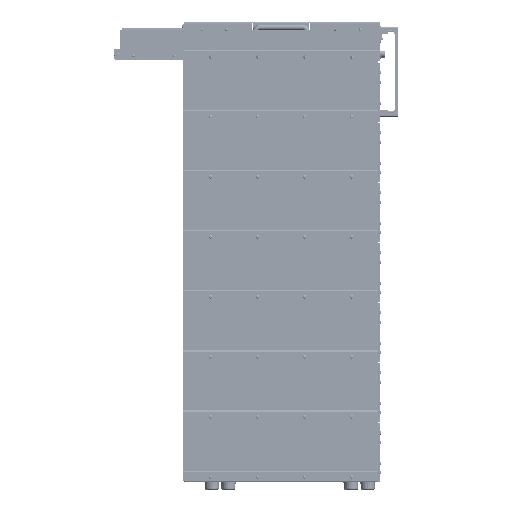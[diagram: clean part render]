
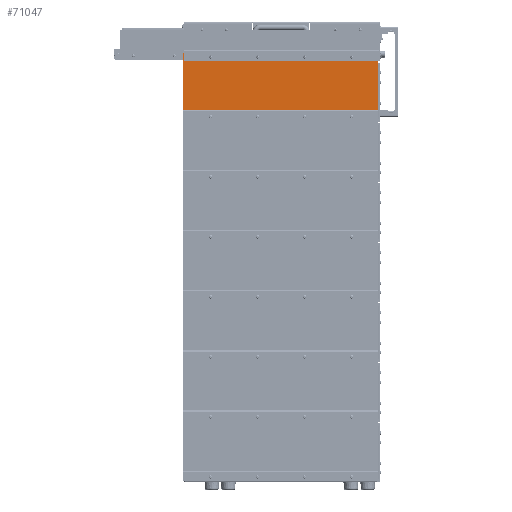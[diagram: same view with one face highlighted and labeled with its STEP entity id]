
A CAD part, left-side view. The second image highlights one B-rep face of the part: STEP entity #71047.
In plain terms, the highlighted planar face has unit normal (-1, 0, 0).
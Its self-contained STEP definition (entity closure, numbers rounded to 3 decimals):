
#71047=ADVANCED_FACE('',(#159209,#159210,#159211,#159212,#159213),#159214,.T.);
#159209=FACE_OUTER_BOUND('',#277696,.T.);
#159210=FACE_BOUND('',#277697,.T.);
#159211=FACE_BOUND('',#277698,.T.);
#159212=FACE_BOUND('',#277699,.T.);
#159213=FACE_BOUND('',#277700,.T.);
#159214=PLANE('',#277701);
#277696=EDGE_LOOP('',(#468853,#468854,#468855,#468856,#468857,#468858,#468859,#468860));
#277697=EDGE_LOOP('',(#468861,#468862));
#277698=EDGE_LOOP('',(#468863,#468864));
#277699=EDGE_LOOP('',(#468865,#468866));
#277700=EDGE_LOOP('',(#468867,#468868));
#277701=AXIS2_PLACEMENT_3D('',#468869,#468870,#468871);
#468853=ORIENTED_EDGE('',*,*,#671156,.F.);
#468854=ORIENTED_EDGE('',*,*,#671164,.T.);
#468855=ORIENTED_EDGE('',*,*,#671175,.F.);
#468856=ORIENTED_EDGE('',*,*,#671151,.F.);
#468857=ORIENTED_EDGE('',*,*,#671199,.T.);
#468858=ORIENTED_EDGE('',*,*,#671217,.F.);
#468859=ORIENTED_EDGE('',*,*,#671218,.F.);
#468860=ORIENTED_EDGE('',*,*,#671158,.F.);
#468861=ORIENTED_EDGE('',*,*,#671134,.T.);
#468862=ORIENTED_EDGE('',*,*,#671201,.T.);
#468863=ORIENTED_EDGE('',*,*,#671129,.T.);
#468864=ORIENTED_EDGE('',*,*,#671203,.T.);
#468865=ORIENTED_EDGE('',*,*,#671124,.T.);
#468866=ORIENTED_EDGE('',*,*,#671205,.T.);
#468867=ORIENTED_EDGE('',*,*,#671119,.T.);
#468868=ORIENTED_EDGE('',*,*,#671207,.T.);
#468869=CARTESIAN_POINT('',(546.234,604.229,24.048));
#468870=DIRECTION('',(-1.0,0.,0.));
#468871=DIRECTION('',(0.,0.,1.0));
#671119=EDGE_CURVE('',#816381,#816378,#816382,.T.);
#671124=EDGE_CURVE('',#816390,#816387,#816391,.T.);
#671129=EDGE_CURVE('',#816399,#816396,#816400,.T.);
#671134=EDGE_CURVE('',#816408,#816405,#816409,.T.);
#671151=EDGE_CURVE('',#816437,#816433,#816439,.T.);
#671156=EDGE_CURVE('',#816446,#816442,#816448,.T.);
#671158=EDGE_CURVE('',#816442,#816450,#816451,.T.);
#671164=EDGE_CURVE('',#816446,#816458,#816460,.T.);
#671175=EDGE_CURVE('',#816433,#816458,#816473,.T.);
#671199=EDGE_CURVE('',#816437,#816503,#816505,.T.);
#671201=EDGE_CURVE('',#816405,#816408,#816507,.T.);
#671203=EDGE_CURVE('',#816396,#816399,#816509,.T.);
#671205=EDGE_CURVE('',#816387,#816390,#816511,.T.);
#671207=EDGE_CURVE('',#816378,#816381,#816513,.T.);
#671217=EDGE_CURVE('',#816523,#816503,#816524,.T.);
#671218=EDGE_CURVE('',#816450,#816523,#816525,.T.);
#816378=VERTEX_POINT('',#1026223);
#816381=VERTEX_POINT('',#1026227);
#816382=CIRCLE('',#1026228,2.5);
#816387=VERTEX_POINT('',#1026234);
#816390=VERTEX_POINT('',#1026238);
#816391=CIRCLE('',#1026239,2.5);
#816396=VERTEX_POINT('',#1026245);
#816399=VERTEX_POINT('',#1026249);
#816400=CIRCLE('',#1026250,2.5);
#816405=VERTEX_POINT('',#1026256);
#816408=VERTEX_POINT('',#1026260);
#816409=CIRCLE('',#1026261,2.5);
#816433=VERTEX_POINT('',#1026290);
#816437=VERTEX_POINT('',#1026295);
#816439=CIRCLE('',#1026298,1.457);
#816442=VERTEX_POINT('',#1026301);
#816446=VERTEX_POINT('',#1026306);
#816448=CIRCLE('',#1026309,2.538);
#816450=VERTEX_POINT('',#1026311);
#816451=CIRCLE('',#1026312,2.538);
#816458=VERTEX_POINT('',#1026321);
#816460=LINE('',#1026324,#1026325);
#816473=CIRCLE('',#1026341,1.457);
#816503=VERTEX_POINT('',#1026380);
#816505=LINE('',#1026383,#1026384);
#816507=CIRCLE('',#1026386,2.5);
#816509=CIRCLE('',#1026388,2.5);
#816511=CIRCLE('',#1026390,2.5);
#816513=CIRCLE('',#1026392,2.5);
#816523=VERTEX_POINT('',#1026402);
#816524=LINE('',#1026403,#1026404);
#816525=LINE('',#1026405,#1026406);
#1026223=CARTESIAN_POINT('',(546.234,974.979,79.473));
#1026227=CARTESIAN_POINT('',(546.234,979.979,79.473));
#1026228=AXIS2_PLACEMENT_3D('',#1224297,#1224298,#1224299);
#1026234=CARTESIAN_POINT('',(546.234,870.559,79.473));
#1026238=CARTESIAN_POINT('',(546.234,875.559,79.473));
#1026239=AXIS2_PLACEMENT_3D('',#1224305,#1224306,#1224307);
#1026245=CARTESIAN_POINT('',(546.234,766.149,79.473));
#1026249=CARTESIAN_POINT('',(546.234,771.149,79.473));
#1026250=AXIS2_PLACEMENT_3D('',#1224313,#1224314,#1224315);
#1026256=CARTESIAN_POINT('',(546.234,661.729,79.473));
#1026260=CARTESIAN_POINT('',(546.234,666.729,79.473));
#1026261=AXIS2_PLACEMENT_3D('',#1224321,#1224322,#1224323);
#1026290=CARTESIAN_POINT('',(546.234,1037.053,87.296));
#1026295=CARTESIAN_POINT('',(546.234,1037.479,86.266));
#1026298=AXIS2_PLACEMENT_3D('',#1224349,#1224350,#1224351);
#1026301=CARTESIAN_POINT('',(546.234,604.973,86.979));
#1026306=CARTESIAN_POINT('',(546.234,606.767,87.723));
#1026309=AXIS2_PLACEMENT_3D('',#1224357,#1224358,#1224359);
#1026311=CARTESIAN_POINT('',(546.234,604.229,85.185));
#1026312=AXIS2_PLACEMENT_3D('',#1224360,#1224361,#1224362);
#1026321=CARTESIAN_POINT('',(546.234,1036.023,87.723));
#1026324=CARTESIAN_POINT('',(546.234,604.229,87.723));
#1026325=VECTOR('',#1224369,1.0);
#1026341=AXIS2_PLACEMENT_3D('',#1224388,#1224389,#1224390);
#1026380=CARTESIAN_POINT('',(546.234,1037.479,-39.627));
#1026383=CARTESIAN_POINT('',(546.234,1037.479,87.723));
#1026384=VECTOR('',#1224425,1.0);
#1026386=AXIS2_PLACEMENT_3D('',#1224426,#1224427,#1224428);
#1026388=AXIS2_PLACEMENT_3D('',#1224429,#1224430,#1224431);
#1026390=AXIS2_PLACEMENT_3D('',#1224432,#1224433,#1224434);
#1026392=AXIS2_PLACEMENT_3D('',#1224435,#1224436,#1224437);
#1026402=CARTESIAN_POINT('',(546.234,604.229,-39.627));
#1026403=CARTESIAN_POINT('',(546.234,604.229,-39.627));
#1026404=VECTOR('',#1224450,1.0);
#1026405=CARTESIAN_POINT('',(546.234,604.229,87.723));
#1026406=VECTOR('',#1224451,1.0);
#1224297=CARTESIAN_POINT('',(546.234,977.479,79.473));
#1224298=DIRECTION('',(1.0,0.,0.));
#1224299=DIRECTION('',(0.,-1.0,0.));
#1224305=CARTESIAN_POINT('',(546.234,873.059,79.473));
#1224306=DIRECTION('',(1.0,0.,0.));
#1224307=DIRECTION('',(0.,-1.0,0.));
#1224313=CARTESIAN_POINT('',(546.234,768.649,79.473));
#1224314=DIRECTION('',(1.0,0.,0.));
#1224315=DIRECTION('',(0.,-1.0,0.));
#1224321=CARTESIAN_POINT('',(546.234,664.229,79.473));
#1224322=DIRECTION('',(1.0,0.,0.));
#1224323=DIRECTION('',(0.,-1.0,0.));
#1224349=CARTESIAN_POINT('',(546.234,1036.023,86.266));
#1224350=DIRECTION('',(1.0,0.,0.));
#1224351=DIRECTION('',(0.,0.707,0.707));
#1224357=CARTESIAN_POINT('',(546.234,606.767,85.185));
#1224358=DIRECTION('',(1.0,0.,0.));
#1224359=DIRECTION('',(0.,-0.707,0.707));
#1224360=CARTESIAN_POINT('',(546.234,606.767,85.185));
#1224361=DIRECTION('',(1.0,0.,0.));
#1224362=DIRECTION('',(0.,-0.707,0.707));
#1224369=DIRECTION('',(0.0,1.0,0.0));
#1224388=CARTESIAN_POINT('',(546.234,1036.023,86.266));
#1224389=DIRECTION('',(1.0,0.,0.));
#1224390=DIRECTION('',(0.,0.707,0.707));
#1224425=DIRECTION('',(0.0,0.0,-1.0));
#1224426=CARTESIAN_POINT('',(546.234,664.229,79.473));
#1224427=DIRECTION('',(1.0,0.,0.));
#1224428=DIRECTION('',(0.,-1.0,0.));
#1224429=CARTESIAN_POINT('',(546.234,768.649,79.473));
#1224430=DIRECTION('',(1.0,0.,0.));
#1224431=DIRECTION('',(0.,-1.0,0.));
#1224432=CARTESIAN_POINT('',(546.234,873.059,79.473));
#1224433=DIRECTION('',(1.0,0.,0.));
#1224434=DIRECTION('',(0.,-1.0,0.));
#1224435=CARTESIAN_POINT('',(546.234,977.479,79.473));
#1224436=DIRECTION('',(1.0,0.,0.));
#1224437=DIRECTION('',(0.,-1.0,0.));
#1224450=DIRECTION('',(0.0,1.0,0.0));
#1224451=DIRECTION('',(0.0,0.0,-1.0));
